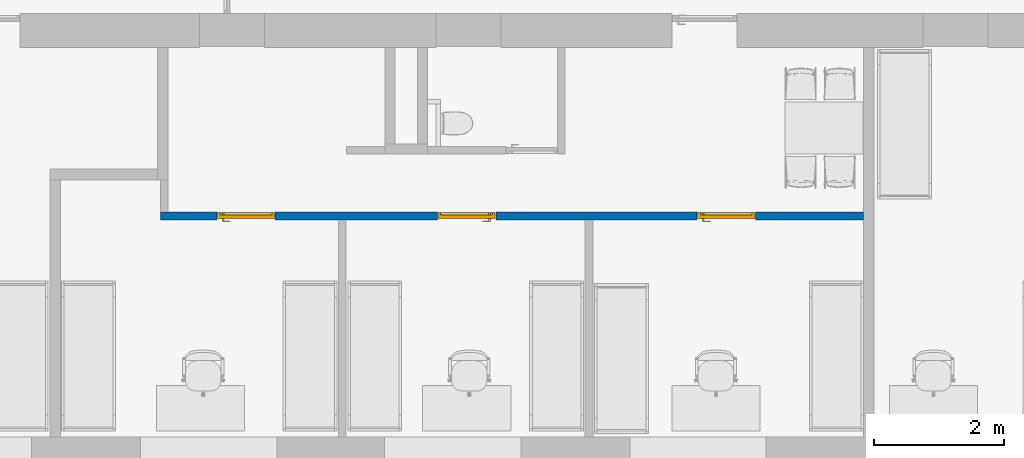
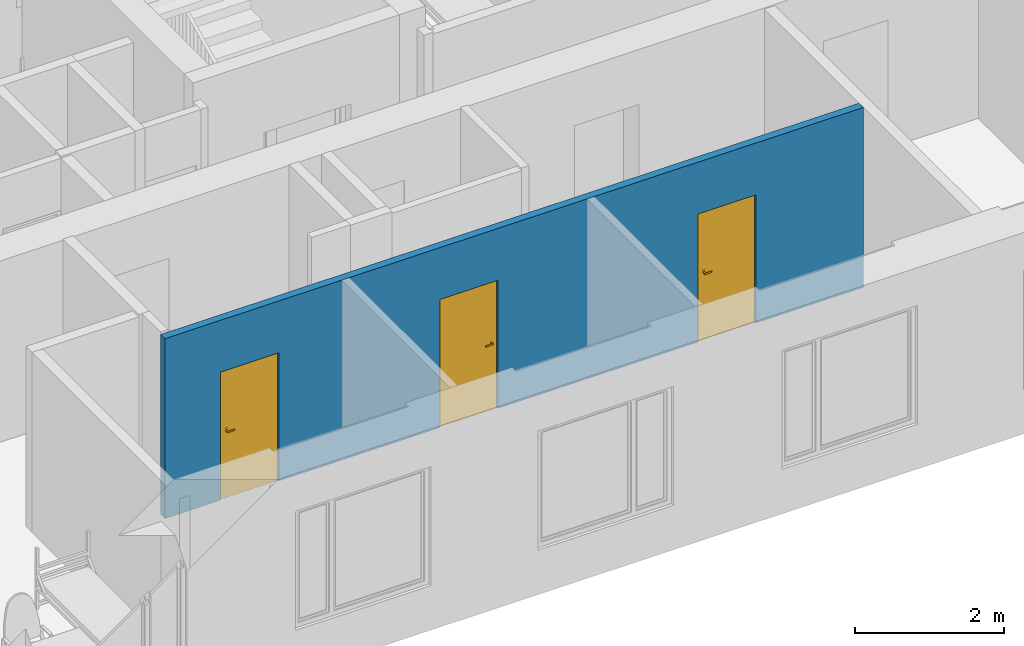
# One storey, part 2 of 48: 3 doors, 1 wall, 3 openings.
"""IFC2X3 building model written with IfcOpenShell, lengths in millimetres."""

from ifc_helpers import new_model, entity, si_unit, converted_unit, derived_unit, direction, frame, frame_2d, origin, place, context, subcontext, project, spatial, rectangle, extrude, faceted_brep, source, transform, mapped, material, material_list, layer, layer_set, layer_usage, type_object, type_shapes, element, fill, save


model = new_model("IFC2X3")

# Units and contexts
model_context = context("Model", 3, precision=0.01, world=origin(), true_north=direction((6.12303176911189e-17, 1.0)))
body_context = subcontext(model_context, "Body", "Model", "MODEL_VIEW")
ifc_project = project(units=[si_unit("LENGTHUNIT", "METRE", prefix="MILLI"), si_unit("AREAUNIT", "SQUARE_METRE"), si_unit("VOLUMEUNIT", "CUBIC_METRE"), converted_unit("PLANEANGLEUNIT", "DEGREE", entity("IfcRatioMeasure", 0.0174532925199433), si_unit("PLANEANGLEUNIT", "RADIAN"), dimensions=[0, 0, 0, 0, 0, 0, 0]), si_unit("MASSUNIT", "GRAM", prefix="KILO"), derived_unit("MASSDENSITYUNIT", [(si_unit("MASSUNIT", "GRAM", prefix="KILO"), 1), (si_unit("LENGTHUNIT", "METRE"), -3)]), si_unit("TIMEUNIT", "SECOND"), si_unit("FREQUENCYUNIT", "HERTZ"), si_unit("THERMODYNAMICTEMPERATUREUNIT", "DEGREE_CELSIUS"), derived_unit("THERMALTRANSMITTANCEUNIT", [(si_unit("MASSUNIT", "GRAM", prefix="KILO"), 1), (si_unit("THERMODYNAMICTEMPERATUREUNIT", "KELVIN"), -1), (si_unit("TIMEUNIT", "SECOND"), -3)]), derived_unit("VOLUMETRICFLOWRATEUNIT", [(si_unit("LENGTHUNIT", "METRE"), 3), (si_unit("TIMEUNIT", "SECOND"), -1)]), si_unit("ELECTRICCURRENTUNIT", "AMPERE"), si_unit("ELECTRICVOLTAGEUNIT", "VOLT"), si_unit("POWERUNIT", "WATT"), si_unit("FORCEUNIT", "NEWTON", prefix="KILO"), si_unit("ILLUMINANCEUNIT", "LUX"), si_unit("LUMINOUSFLUXUNIT", "LUMEN"), si_unit("LUMINOUSINTENSITYUNIT", "CANDELA"), derived_unit("USERDEFINED", [(si_unit("MASSUNIT", "GRAM", prefix="KILO"), -1), (si_unit("LENGTHUNIT", "METRE"), -2), (si_unit("TIMEUNIT", "SECOND"), 3), (si_unit("LUMINOUSFLUXUNIT", "LUMEN"), 1)]), derived_unit("LINEARVELOCITYUNIT", [(si_unit("LENGTHUNIT", "METRE"), 1), (si_unit("TIMEUNIT", "SECOND"), -1)]), si_unit("PRESSUREUNIT", "PASCAL"), derived_unit("USERDEFINED", [(si_unit("LENGTHUNIT", "METRE"), -2), (si_unit("MASSUNIT", "GRAM", prefix="KILO"), 1), (si_unit("TIMEUNIT", "SECOND"), -2)]), derived_unit("LINEARFORCEUNIT", [(si_unit("MASSUNIT", "GRAM", prefix="KILO"), 1), (si_unit("LENGTHUNIT", "METRE"), 1), (si_unit("TIMEUNIT", "SECOND"), -2), (si_unit("LENGTHUNIT", "METRE"), -1)]), derived_unit("PLANARFORCEUNIT", [(si_unit("MASSUNIT", "GRAM", prefix="KILO"), 1), (si_unit("LENGTHUNIT", "METRE"), 1), (si_unit("TIMEUNIT", "SECOND"), -2), (si_unit("LENGTHUNIT", "METRE"), -2)])], contexts=[model_context])

# Site, building, storey
site_placement = place(None, origin())
site = spatial("IfcSite", under=ifc_project, at=site_placement, Name="Default", CompositionType="ELEMENT")
building_placement = place(site_placement, origin())
building = spatial("IfcBuilding", under=site, at=building_placement, Name="SMA ARH", CompositionType="ELEMENT")
storey_placement = place(building_placement, frame((0.0, 0.0, 3300.0)))
storey = spatial("IfcBuildingStorey", under=building, at=storey_placement, Name="2 Korrus", CompositionType="ELEMENT", Elevation=3299.99999999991)

# Wall, openings, doors
ifc_material_1 = material(Name="EST. Ehitusplaat. Kipsplaat")
ifc_layer_1 = layer(ifc_material_1, 12.5)
ifc_layer_2 = layer(ifc_material_1, 12.5)
ifc_material_2 = material(Name="EST. Soojustus. Mineraalvill. Default")
ifc_layer_3 = layer(ifc_material_2, 66.0)
ifc_layer_4 = layer(ifc_material_1, 12.5)
ifc_layer_5 = layer(ifc_material_1, 12.5)
ifc_layer_set = layer_set([ifc_layer_1, ifc_layer_2, ifc_layer_3, ifc_layer_4, ifc_layer_5], Name="Basic Wall:SS-05_Kips, 66mm metallkarkass")
ifc_layer_usage = layer_usage(ifc_layer_set, "AXIS2", "NEGATIVE", 58.0)
wall_type = type_object("IfcWallType", Name="Basic Wall:SS-05_Kips, 66mm metallkarkass", PredefinedType="STANDARD", material=ifc_layer_set)
wall_placement = place(storey_placement, frame((5329.0, 3402.0, 0.0)))
wall = element("IfcWallStandardCase", 1, at=wall_placement, inside=storey, type_object=wall_type, material=ifc_layer_usage, Name="Basic Wall:SS-05_Kips, 66mm metallkarkass", ObjectType="Basic Wall:SS-05_Kips, 66mm metallkarkass", context=body_context, shape_type="SweptSolid", body=[
    extrude(rectangle(XDim=10828.9999999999, YDim=116.0, at=frame_2d((5414.49999999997, 6.75015598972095e-14), x_axis=(-1.0, 0.0))), origin(), (0.0, 0.0, 1.0), 2949.99999999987),
])
opening_1_placement = place(wall_placement, frame((9165.75000000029, 58.0, 0.0)))
opening_1 = element("IfcOpeningElement", 2, at=opening_1_placement, cuts=wall, Name="SMA_D01, 1-poolne:SU-P-05 - 900x2100 TUBA:1", ObjectType="Opening", context=body_context, shape_type="SweptSolid", body=[
    extrude(rectangle(XDim=2099.99999999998, YDim=900.0, at=frame_2d((1049.99999999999, 450.000000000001), x_axis=(1.0, 0.0))), frame((0.0, 0.0, 0.0), z_axis=(0.0, -1.0, 0.0), x_axis=(0.0, 0.0, 1.0)), (0.0, 0.0, 1.0), 116.0),
])
opening_2_placement = place(wall_placement, frame((5165.7500000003, 58.0, 0.0)))
opening_2 = element("IfcOpeningElement", 3, at=opening_2_placement, cuts=wall, Name="SMA_D01, 1-poolne:SU-P-05 - 900x2100 TUBA:1", ObjectType="Opening", context=body_context, shape_type="SweptSolid", body=[
    extrude(rectangle(XDim=2099.99999999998, YDim=900.0, at=frame_2d((1049.99999999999, 450.0), x_axis=(1.0, 0.0))), frame((0.0, 0.0, 0.0), z_axis=(0.0, -1.0, 0.0), x_axis=(0.0, 0.0, 1.0)), (0.0, 0.0, 1.0), 116.0),
])
opening_3_placement = place(wall_placement, frame((1765.7500000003, 58.0, 0.0)))
opening_3 = element("IfcOpeningElement", 4, at=opening_3_placement, cuts=wall, Name="SMA_D01, 1-poolne:SU-P-05 - 900x2100 TUBA:1", ObjectType="Opening", context=body_context, shape_type="SweptSolid", body=[
    extrude(rectangle(XDim=2099.99999999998, YDim=900.0, at=frame_2d((1049.99999999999, 450.0), x_axis=(1.0, 0.0))), frame((0.0, 0.0, 0.0), z_axis=(0.0, -1.0, 0.0), x_axis=(0.0, 0.0, 1.0)), (0.0, 0.0, 1.0), 116.0),
])
ifc_material_3 = material(Name="EST. Metall. Alumiinium. Värvitud. RAL7023 (Concrete grey)")
ifc_material_4 = material(Name="<Unnamed>")
ifc_material_5 = material(Name="EST. Klaas. 3x. Default")
ifc_material_list_1 = material_list([ifc_material_3, ifc_material_4, ifc_material_3, ifc_material_4, ifc_material_4, ifc_material_5, ifc_material_3])
door_style_1 = type_object("IfcDoorStyle", Name="SMA_D01, 1-poolne:SU-P-05 - 900x2100 TUBA", ConstructionType="NOTDEFINED", OperationType="SINGLE_SWING_LEFT", ParameterTakesPrecedence=False, Sizeable=False, material=ifc_material_list_1)
shared_shape_1 = source(origin(), body_context, "Body", "Brep", [
    faceted_brep([(790.0, 6.0, 1112.5), (695.0, 6.0, 1112.5), (695.0, 1.0, 1112.5), (815.0, 1.0, 1112.5), (815.0, 44.0, 1112.5), (790.0, 44.0, 1112.5), (790.0, 6.0, 1087.5), (790.0, 44.0, 1087.5), (815.0, 44.0, 1087.5), (815.0, 1.0, 1087.5), (695.0, 1.0, 1087.5), (695.0, 6.0, 1087.5)], [[[0, 1, 2, 3, 4, 5]], [[6, 7, 8, 9, 10, 11]], [[5, 7, 6, 0]], [[4, 8, 7, 5]], [[3, 9, 8, 4]], [[2, 10, 9, 3]], [[1, 11, 10, 2]], [[0, 6, 11, 1]]]),
    faceted_brep([(777.500000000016, 44.0, 1137.5), (827.500000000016, 44.0, 1137.5), (827.500000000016, 46.0, 1137.5), (777.500000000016, 46.0, 1137.5), (777.500000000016, 44.0, 1017.5), (777.500000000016, 46.0, 1017.5), (827.500000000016, 46.0, 1017.5), (827.500000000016, 44.0, 1017.5)], [[[0, 1, 2, 3]], [[4, 5, 6, 7]], [[3, 5, 4, 0]], [[2, 6, 5, 3]], [[1, 7, 6, 2]], [[0, 4, 7, 1]]]),
    faceted_brep([(790.0, 136.0, 1112.5), (790.0, 98.0, 1112.5), (815.0, 98.0, 1112.5), (815.0, 141.0, 1112.5), (695.0, 141.0, 1112.5), (695.0, 136.0, 1112.5), (790.0, 136.0, 1087.5), (695.0, 136.0, 1087.5), (695.0, 141.0, 1087.5), (815.0, 141.0, 1087.5), (815.0, 98.0, 1087.5), (790.0, 98.0, 1087.5)], [[[0, 1, 2, 3, 4, 5]], [[6, 7, 8, 9, 10, 11]], [[1, 0, 6, 11]], [[2, 1, 11, 10]], [[3, 2, 10, 9]], [[4, 3, 9, 8]], [[5, 4, 8, 7]], [[0, 5, 7, 6]]]),
    faceted_brep([(777.500000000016, 98.0, 1137.5), (777.500000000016, 96.0, 1137.5), (827.500000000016, 96.0, 1137.5), (827.500000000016, 98.0, 1137.5), (777.500000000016, 98.0, 1017.5), (827.500000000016, 98.0, 1017.5), (827.500000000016, 96.0, 1017.5), (777.500000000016, 96.0, 1017.5)], [[[0, 1, 2, 3]], [[4, 5, 6, 7]], [[1, 0, 4, 7]], [[2, 1, 7, 6]], [[3, 2, 6, 5]], [[0, 3, 5, 4]]]),
    faceted_brep([(50.0, 6.0, 30.0), (50.0, 46.0, 30.0), (50.0, 46.0, 20.0), (50.0, 46.0, 0.0), (50.0, 6.0, 0.0), (850.0, 6.0, 30.0), (850.0, 6.0, 0.0), (850.0, 46.0, 0.0), (850.0, 46.0, 20.0), (850.0, 46.0, 30.0), (35.0, 46.0, 0.0), (35.0, 96.0, 0.0), (865.0, 96.0, 0.0), (865.0, 46.0, 0.0), (35.0, 96.0, 20.0), (35.0, 46.0, 20.0), (865.0, 96.0, 20.0), (865.0, 46.0, 20.0)], [[[0, 1, 2, 3, 4]], [[5, 6, 7, 8, 9]], [[4, 6, 5, 0]], [[3, 10, 11, 12, 13, 7, 6, 4]], [[9, 8, 2, 1]], [[0, 5, 9, 1]], [[14, 11, 10, 15]], [[16, 17, 13, 12]], [[15, 2, 8, 17, 16, 14]], [[10, 3, 2, 15]], [[14, 16, 12, 11]], [[17, 8, 7, 13]]]),
    faceted_brep([(10.0, 6.0, 0.0), (10.0, 96.0, 0.0), (35.0, 96.0, 0.0), (35.0, 46.0, 0.0), (50.0, 46.0, 0.0), (50.0, 6.0, 0.0), (50.0, 6.0, 2050.0), (850.0, 6.0, 2050.0), (850.0, 6.0, 0.0), (890.0, 6.0, 0.0), (890.0, 6.0, 2090.0), (10.0, 6.0, 2090.0), (50.0, 46.0, 2050.0), (35.0, 46.0, 2065.0), (865.0, 46.0, 2065.0), (865.0, 46.0, 0.0), (850.0, 46.0, 0.0), (850.0, 46.0, 2050.0), (35.0, 96.0, 2065.0), (10.0, 96.0, 2090.0), (890.0, 96.0, 2090.0), (890.0, 96.0, 0.0), (865.0, 96.0, 0.0), (865.0, 96.0, 2065.0)], [[[0, 1, 2, 3, 4, 5]], [[5, 6, 7, 8, 9, 10, 11, 0]], [[4, 12, 6, 5]], [[3, 13, 14, 15, 16, 17, 12, 4]], [[2, 18, 13, 3]], [[1, 19, 20, 21, 22, 23, 18, 2]], [[0, 11, 19, 1]], [[9, 21, 20, 10]], [[8, 16, 15, 22, 21, 9]], [[7, 17, 16, 8]], [[14, 23, 22, 15]], [[6, 12, 17, 7]], [[13, 18, 23, 14]], [[10, 20, 19, 11]]]),
    faceted_brep([(865.0, 46.0, 2065.0), (35.0, 46.0, 2065.0), (35.0, 46.0, 20.0), (865.0, 46.0, 20.0), (865.0, 96.0, 2065.0), (865.0, 96.0, 20.0), (35.0, 96.0, 20.0), (35.0, 96.0, 2065.0)], [[[0, 1, 2, 3]], [[4, 5, 6, 7]], [[3, 5, 4, 0]], [[2, 6, 5, 3]], [[1, 7, 6, 2]], [[0, 4, 7, 1]]]),
])
type_shapes(door_style_1, [shared_shape_1])
door_1_placement = place(opening_3_placement, frame((0.0, 0.0, 0.0), z_axis=(0.0, 0.0, 1.0), x_axis=(-1.0, 0.0, 0.0)))
door_1 = element("IfcDoor", 5, at=door_1_placement, inside=storey, type_object=door_style_1, material=ifc_material_3, Name="SMA_D01, 1-poolne:SU-P-05 - 900x2100 TUBA", ObjectType="SMA_D01, 1-poolne:SU-P-05 - 900x2100 TUBA", OverallHeight=2099.99999999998, OverallWidth=900.0, context=body_context, shape_type="MappedRepresentation", body=[
    mapped(shared_shape_1, transform((0.0, 0.0, 0.0), scale=1.0)),
])
fill(opening_3, door_1)
door_2_placement = place(opening_1_placement, frame((0.0, 0.0, 0.0), z_axis=(0.0, 0.0, 1.0), x_axis=(-1.0, 0.0, 0.0)))
door_2 = element("IfcDoor", 6, at=door_2_placement, inside=storey, type_object=door_style_1, material=ifc_material_3, Name="SMA_D01, 1-poolne:SU-P-05 - 900x2100 TUBA", ObjectType="SMA_D01, 1-poolne:SU-P-05 - 900x2100 TUBA", OverallHeight=2099.99999999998, OverallWidth=900.000000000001, context=body_context, shape_type="MappedRepresentation", body=[
    mapped(shared_shape_1, transform((0.0, 0.0, 0.0), scale=1.0)),
])
fill(opening_1, door_2)
ifc_material_list_2 = material_list([ifc_material_4, ifc_material_5, ifc_material_4, ifc_material_3, ifc_material_3, ifc_material_3, ifc_material_4])
door_style_2 = type_object("IfcDoorStyle", Name="SMA_D01, 1-poolne:SU-P-05 - 900x2100 TUBA", ConstructionType="NOTDEFINED", OperationType="SINGLE_SWING_RIGHT", ParameterTakesPrecedence=False, Sizeable=False, material=ifc_material_list_2)
shared_shape_2 = source(origin(), body_context, "Body", "Brep", [
    faceted_brep([(110.0, 6.0, 1112.5), (110.0, 44.0, 1112.5), (85.0, 44.0, 1112.5), (85.0, 1.0, 1112.5), (205.0, 1.0, 1112.5), (205.0, 6.0, 1112.5), (110.0, 6.0, 1087.5), (205.0, 6.0, 1087.5), (205.0, 1.0, 1087.5), (85.0, 1.0, 1087.5), (85.0, 44.0, 1087.5), (110.0, 44.0, 1087.5)], [[[0, 1, 2, 3, 4, 5]], [[6, 7, 8, 9, 10, 11]], [[1, 0, 6, 11]], [[2, 1, 11, 10]], [[3, 2, 10, 9]], [[4, 3, 9, 8]], [[5, 4, 8, 7]], [[0, 5, 7, 6]]]),
    faceted_brep([(122.5, 44.0, 1137.5), (122.5, 46.0, 1137.5), (72.5000000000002, 46.0, 1137.5), (72.5000000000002, 44.0, 1137.5), (122.5, 44.0, 1017.5), (72.5000000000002, 44.0, 1017.5), (72.5000000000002, 46.0, 1017.5), (122.5, 46.0, 1017.5)], [[[0, 1, 2, 3]], [[4, 5, 6, 7]], [[1, 0, 4, 7]], [[2, 1, 7, 6]], [[3, 2, 6, 5]], [[0, 3, 5, 4]]]),
    faceted_brep([(110.0, 136.0, 1112.5), (205.0, 136.0, 1112.5), (205.0, 141.0, 1112.5), (85.0, 141.0, 1112.5), (85.0, 98.0, 1112.5), (110.0, 98.0, 1112.5), (110.0, 136.0, 1087.5), (110.0, 98.0, 1087.5), (85.0, 98.0, 1087.5), (85.0, 141.0, 1087.5), (205.0, 141.0, 1087.5), (205.0, 136.0, 1087.5)], [[[0, 1, 2, 3, 4, 5]], [[6, 7, 8, 9, 10, 11]], [[5, 7, 6, 0]], [[4, 8, 7, 5]], [[3, 9, 8, 4]], [[2, 10, 9, 3]], [[1, 11, 10, 2]], [[0, 6, 11, 1]]]),
    faceted_brep([(122.5, 98.0, 1137.5), (72.5000000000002, 98.0, 1137.5), (72.5000000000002, 96.0, 1137.5), (122.5, 96.0, 1137.5), (122.5, 98.0, 1017.5), (122.5, 96.0, 1017.5), (72.5000000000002, 96.0, 1017.5), (72.5000000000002, 98.0, 1017.5)], [[[0, 1, 2, 3]], [[4, 5, 6, 7]], [[3, 5, 4, 0]], [[2, 6, 5, 3]], [[1, 7, 6, 2]], [[0, 4, 7, 1]]]),
    faceted_brep([(850.0, 6.0, 30.0), (850.0, 6.0, 0.0), (850.0, 46.0, 0.0), (850.0, 46.0, 20.0), (850.0, 46.0, 30.0), (50.0, 6.0, 30.0), (50.0, 46.0, 30.0), (50.0, 46.0, 20.0), (50.0, 46.0, 0.0), (50.0, 6.0, 0.0), (35.0, 46.0, 0.0), (35.0, 96.0, 0.0), (865.0, 96.0, 0.0), (865.0, 46.0, 0.0), (865.0, 96.0, 20.0), (865.0, 46.0, 20.0), (35.0, 96.0, 20.0), (35.0, 46.0, 20.0)], [[[0, 1, 2, 3, 4]], [[5, 6, 7, 8, 9]], [[1, 0, 5, 9]], [[2, 1, 9, 8, 10, 11, 12, 13]], [[6, 4, 3, 7]], [[0, 4, 6, 5]], [[14, 15, 13, 12]], [[16, 11, 10, 17]], [[15, 14, 16, 17, 7, 3]], [[13, 15, 3, 2]], [[14, 12, 11, 16]], [[17, 10, 8, 7]]]),
    faceted_brep([(890.0, 6.0, 0.0), (850.0, 6.0, 0.0), (850.0, 46.0, 0.0), (865.0, 46.0, 0.0), (865.0, 96.0, 0.0), (890.0, 96.0, 0.0), (890.0, 6.0, 2090.0), (10.0, 6.0, 2090.0), (10.0, 6.0, 0.0), (50.0, 6.0, 0.0), (50.0, 6.0, 2050.0), (850.0, 6.0, 2050.0), (850.0, 46.0, 2050.0), (50.0, 46.0, 2050.0), (50.0, 46.0, 0.0), (35.0, 46.0, 0.0), (35.0, 46.0, 2065.0), (865.0, 46.0, 2065.0), (865.0, 96.0, 2065.0), (35.0, 96.0, 2065.0), (35.0, 96.0, 0.0), (10.0, 96.0, 0.0), (10.0, 96.0, 2090.0), (890.0, 96.0, 2090.0)], [[[0, 1, 2, 3, 4, 5]], [[1, 0, 6, 7, 8, 9, 10, 11]], [[2, 1, 11, 12]], [[3, 2, 12, 13, 14, 15, 16, 17]], [[4, 3, 17, 18]], [[5, 4, 18, 19, 20, 21, 22, 23]], [[0, 5, 23, 6]], [[8, 7, 22, 21]], [[9, 8, 21, 20, 15, 14]], [[10, 9, 14, 13]], [[16, 15, 20, 19]], [[11, 10, 13, 12]], [[17, 16, 19, 18]], [[7, 6, 23, 22]]]),
    faceted_brep([(35.0, 46.0, 2065.0), (35.0, 46.0, 20.0), (865.0, 46.0, 20.0), (865.0, 46.0, 2065.0), (35.0, 96.0, 2065.0), (865.0, 96.0, 2065.0), (865.0, 96.0, 20.0), (35.0, 96.0, 20.0)], [[[0, 1, 2, 3]], [[4, 5, 6, 7]], [[1, 0, 4, 7]], [[2, 1, 7, 6]], [[3, 2, 6, 5]], [[0, 3, 5, 4]]]),
])
type_shapes(door_style_2, [shared_shape_2])
door_3_placement = place(opening_2_placement, frame((0.0, 0.0, 0.0), z_axis=(0.0, 0.0, 1.0), x_axis=(-1.0, 0.0, 0.0)))
door_3 = element("IfcDoor", 7, at=door_3_placement, inside=storey, type_object=door_style_2, material=ifc_material_3, Name="SMA_D01, 1-poolne:SU-P-05 - 900x2100 TUBA", ObjectType="SMA_D01, 1-poolne:SU-P-05 - 900x2100 TUBA", OverallHeight=2099.99999999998, OverallWidth=900.0, context=body_context, shape_type="MappedRepresentation", body=[
    mapped(shared_shape_2, transform((0.0, 0.0, 0.0), scale=1.0)),
])
fill(opening_2, door_3)

save(model, "model.ifc")
